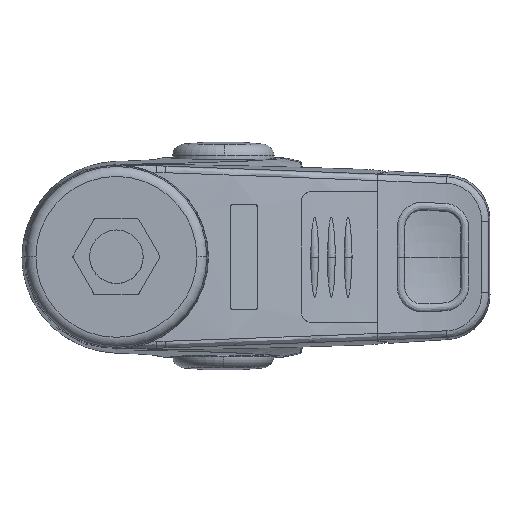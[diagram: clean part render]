
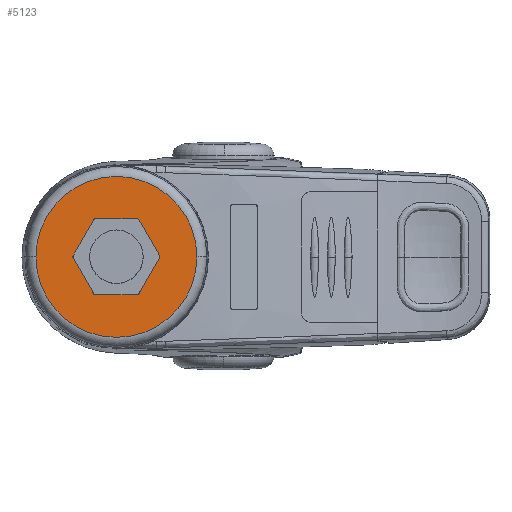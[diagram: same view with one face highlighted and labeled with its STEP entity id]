
A CAD part, top view. The second image highlights one B-rep face of the part: STEP entity #5123.
In plain terms, the highlighted planar face has unit normal (0, 0, 1).
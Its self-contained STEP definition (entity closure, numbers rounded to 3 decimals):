
#1225=FACE_BOUND('',#10561,.T.);
#1226=FACE_BOUND('',#10562,.T.);
#5123=ADVANCED_FACE('',(#1225,#1226),#6544,.F.);
#6544=PLANE('',#41728);
#10561=EDGE_LOOP('',(#26254,#26255,#26256,#26257,#26258,#26259,#26260,#26261,
#26262,#26263,#26264,#26265));
#10562=EDGE_LOOP('',(#26266,#26267));
#13651=LINE('',#86470,#16364);
#13655=LINE('',#86479,#16368);
#13659=LINE('',#86488,#16372);
#13663=LINE('',#86497,#16376);
#13667=LINE('',#86506,#16380);
#13671=LINE('',#86515,#16384);
#16364=VECTOR('',#48840,1.);
#16368=VECTOR('',#48846,1.);
#16372=VECTOR('',#48852,1.);
#16376=VECTOR('',#48858,1.);
#16380=VECTOR('',#48864,1.);
#16384=VECTOR('',#48870,1.);
#26254=ORIENTED_EDGE('',*,*,#37316,.F.);
#26255=ORIENTED_EDGE('',*,*,#37340,.T.);
#26256=ORIENTED_EDGE('',*,*,#37336,.F.);
#26257=ORIENTED_EDGE('',*,*,#37342,.T.);
#26258=ORIENTED_EDGE('',*,*,#37332,.F.);
#26259=ORIENTED_EDGE('',*,*,#37344,.T.);
#26260=ORIENTED_EDGE('',*,*,#37328,.F.);
#26261=ORIENTED_EDGE('',*,*,#37346,.T.);
#26262=ORIENTED_EDGE('',*,*,#37324,.F.);
#26263=ORIENTED_EDGE('',*,*,#37348,.T.);
#26264=ORIENTED_EDGE('',*,*,#37320,.F.);
#26265=ORIENTED_EDGE('',*,*,#37350,.T.);
#26266=ORIENTED_EDGE('',*,*,#37550,.F.);
#26267=ORIENTED_EDGE('',*,*,#37549,.F.);
#31828=VERTEX_POINT('',#86471);
#31829=VERTEX_POINT('',#86472);
#31832=VERTEX_POINT('',#86480);
#31833=VERTEX_POINT('',#86481);
#31836=VERTEX_POINT('',#86489);
#31837=VERTEX_POINT('',#86490);
#31840=VERTEX_POINT('',#86498);
#31841=VERTEX_POINT('',#86499);
#31844=VERTEX_POINT('',#86507);
#31845=VERTEX_POINT('',#86508);
#31848=VERTEX_POINT('',#86516);
#31849=VERTEX_POINT('',#86517);
#31985=VERTEX_POINT('',#87659);
#31986=VERTEX_POINT('',#87662);
#37316=EDGE_CURVE('',#31828,#31829,#13651,.T.);
#37320=EDGE_CURVE('',#31832,#31833,#13655,.T.);
#37324=EDGE_CURVE('',#31836,#31837,#13659,.T.);
#37328=EDGE_CURVE('',#31840,#31841,#13663,.T.);
#37332=EDGE_CURVE('',#31844,#31845,#13667,.T.);
#37336=EDGE_CURVE('',#31848,#31849,#13671,.T.);
#37340=EDGE_CURVE('',#31828,#31849,#39259,.T.);
#37342=EDGE_CURVE('',#31848,#31845,#39261,.T.);
#37344=EDGE_CURVE('',#31844,#31841,#39263,.T.);
#37346=EDGE_CURVE('',#31840,#31837,#39265,.T.);
#37348=EDGE_CURVE('',#31836,#31833,#39267,.T.);
#37350=EDGE_CURVE('',#31832,#31829,#39269,.T.);
#37549=EDGE_CURVE('',#31986,#31985,#39311,.T.);
#37550=EDGE_CURVE('',#31985,#31986,#39312,.T.);
#39259=CIRCLE('',#41573,0.375);
#39261=CIRCLE('',#41576,0.375);
#39263=CIRCLE('',#41579,0.375);
#39265=CIRCLE('',#41582,0.375);
#39267=CIRCLE('',#41585,0.375);
#39269=CIRCLE('',#41588,0.375);
#39311=CIRCLE('',#41725,18.065);
#39312=CIRCLE('',#41727,18.065);
#41573=AXIS2_PLACEMENT_3D('',#86524,#48876,#48877);
#41576=AXIS2_PLACEMENT_3D('',#86527,#48882,#48883);
#41579=AXIS2_PLACEMENT_3D('',#86530,#48888,#48889);
#41582=AXIS2_PLACEMENT_3D('',#86533,#48894,#48895);
#41585=AXIS2_PLACEMENT_3D('',#86536,#48900,#48901);
#41588=AXIS2_PLACEMENT_3D('',#86539,#48906,#48907);
#41725=AXIS2_PLACEMENT_3D('',#87663,#49226,#49227);
#41727=AXIS2_PLACEMENT_3D('',#87665,#49230,#49231);
#41728=AXIS2_PLACEMENT_3D('',#87666,#49232,#49233);
#48840=DIRECTION('',(0.5,0.866,0.));
#48846=DIRECTION('',(-0.5,0.866,0.));
#48852=DIRECTION('',(-1.,0.,0.));
#48858=DIRECTION('',(-0.5,-0.866,0.));
#48864=DIRECTION('',(0.5,-0.866,0.));
#48870=DIRECTION('',(1.,0.,0.));
#48876=DIRECTION('',(0.,0.,-1.));
#48877=DIRECTION('',(0.,1.,0.));
#48882=DIRECTION('',(0.,0.,-1.));
#48883=DIRECTION('',(0.,1.,0.));
#48888=DIRECTION('',(0.,0.,-1.));
#48889=DIRECTION('',(0.,1.,0.));
#48894=DIRECTION('',(0.,0.,-1.));
#48895=DIRECTION('',(0.,1.,0.));
#48900=DIRECTION('',(0.,0.,-1.));
#48901=DIRECTION('',(0.,-1.,0.));
#48906=DIRECTION('',(0.,0.,-1.));
#48907=DIRECTION('',(0.,1.,0.));
#49226=DIRECTION('',(0.,0.,-1.));
#49227=DIRECTION('',(0.,1.,0.));
#49230=DIRECTION('',(0.,0.,-1.));
#49231=DIRECTION('',(0.,1.,0.));
#49232=DIRECTION('',(0.,0.,-1.));
#49233=DIRECTION('',(0.,-1.,0.));
#86470=CARTESIAN_POINT('',(5.03,-8.337,-30.67));
#86471=CARTESIAN_POINT('',(5.03,-8.337,-30.67));
#86472=CARTESIAN_POINT('',(9.736,-0.188,-30.67));
#86479=CARTESIAN_POINT('',(9.736,0.188,-30.67));
#86480=CARTESIAN_POINT('',(9.736,0.188,-30.67));
#86481=CARTESIAN_POINT('',(5.03,8.337,-30.67));
#86488=CARTESIAN_POINT('',(0.,8.525,-30.67));
#86489=CARTESIAN_POINT('',(4.705,8.525,-30.67));
#86490=CARTESIAN_POINT('',(-4.705,8.525,-30.67));
#86497=CARTESIAN_POINT('',(-5.03,8.337,-30.67));
#86498=CARTESIAN_POINT('',(-5.03,8.337,-30.67));
#86499=CARTESIAN_POINT('',(-9.736,0.188,-30.67));
#86506=CARTESIAN_POINT('',(-9.736,-0.188,-30.67));
#86507=CARTESIAN_POINT('',(-9.736,-0.188,-30.67));
#86508=CARTESIAN_POINT('',(-5.03,-8.337,-30.67));
#86515=CARTESIAN_POINT('',(0.,-8.525,-30.67));
#86516=CARTESIAN_POINT('',(-4.705,-8.525,-30.67));
#86517=CARTESIAN_POINT('',(4.705,-8.525,-30.67));
#86524=CARTESIAN_POINT('',(4.705,-8.15,-30.67));
#86527=CARTESIAN_POINT('',(-4.705,-8.15,-30.67));
#86530=CARTESIAN_POINT('',(-9.411,0.,-30.67));
#86533=CARTESIAN_POINT('',(-4.705,8.15,-30.67));
#86536=CARTESIAN_POINT('',(4.705,8.15,-30.67));
#86539=CARTESIAN_POINT('',(9.411,0.,-30.67));
#87659=CARTESIAN_POINT('',(18.065,0.,-30.67));
#87662=CARTESIAN_POINT('',(-18.065,0.,-30.67));
#87663=CARTESIAN_POINT('',(0.,0.,-30.67));
#87665=CARTESIAN_POINT('',(0.,0.,-30.67));
#87666=CARTESIAN_POINT('',(0.,0.,-30.67));
